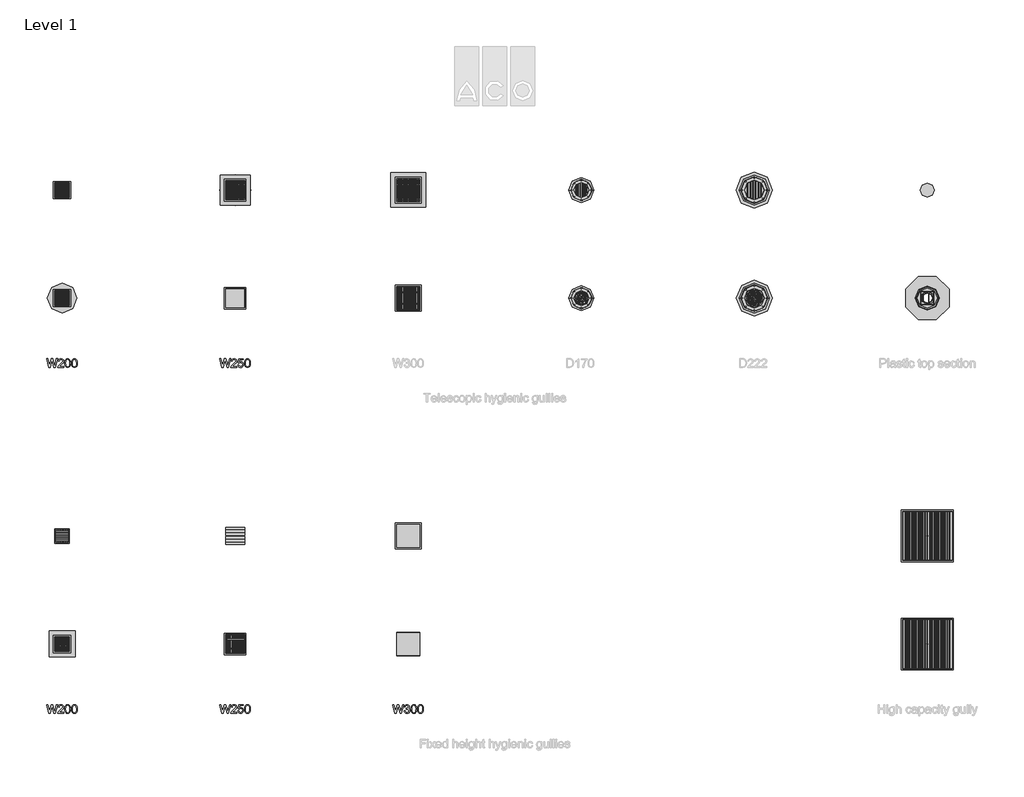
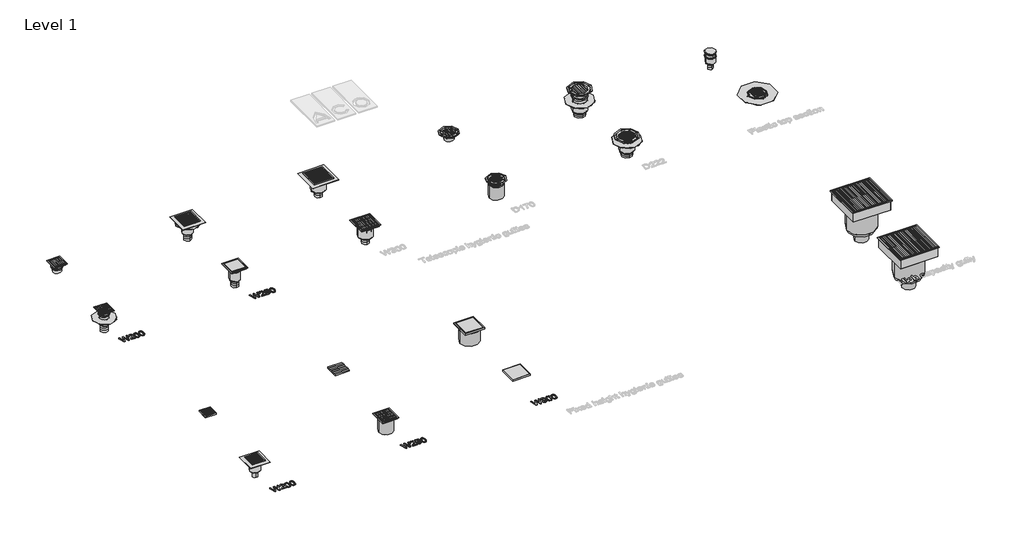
# One storey, part 1 of 3: 57 sanitary terminals, 5 proxies, 3 dampers.
"""IFC4 building model written with IfcOpenShell, lengths in millimetres."""

from ifc_helpers import new_model, si_unit, origin, origin_with_axes, place, context, project, spatial, polyline, outline, extrude, transform, mapped, element, save
from components import std_nested_2a3f0441, std_nested_5fa89a83, w200_grade_1_4301_fixed_height_hygienic_gully_142_outlet_75_82e209ba, std_nested_a31448ca, std_nested_d3c4a1f5, std_nested_3aef32b5, std_nested_d116548a, std_nested_d5818558, std_nested_c48ed7b9, std_nested_245f124b, std_nested_c32a463d, std_nested_079e4442, std_nested_9cee5a2e, std_nested_57f2950a, std_nested_2ee354ad, std_nested_9b02ec69, std_nested_2be02d67, std_nested_8abb2362, std_nested_8b3f8c66, std_nested_70ec9771, std_nested_4e44c4c3, std_nested_489a93e3, std_nested_b19227e2, std_nested_592c855f, std_nested_7deef7a1, std_nested_275881f0, std_nested_45a2f4f4, std_nested_0eeefa5e, std_nested_6499384f, std_nested_efb698b0, std_nested_4763630c, std_nested_6d645567, std_nested_413075a2, std_nested_e0442021, std_nested_ff023d64, std_nested_d4b4db04, std_nested_1c124e65, std_nested_e2511e1a, std_nested_406fe5f1, std_nested_98c6a3e6, std_nested_b8717db3

model = new_model("IFC4")

# Units and contexts
model_context = context("Model", 3, world=origin())
ifc_project = project(units=[si_unit("LENGTHUNIT", "METRE", prefix="MILLI")], contexts=[model_context])

# Site, building, storey
site = spatial("IfcSite", under=ifc_project)
building = spatial("IfcBuilding", under=site)
storey = spatial("IfcBuildingStorey", under=building, Name="Level 1", Elevation=0.0)

# Proxies
placement = place(None, origin())
element("IfcBuildingElementProxy", 1, Name="100mm ACO", ObjectType="100mm ACO", at=placement, inside=storey, context=model_context, shape_type="SweptSolid", body=[
    extrude(outline(polyline([(-4051.8518519, -6500.0), (-4078.0092593, -6600.0), (-4093.8657407, -6600.0), (-4113.744213, -6521.1516204), (-4115.7407407, -6511.9502315), (-4118.75, -6523.8136574), (-4139.6990741, -6600.0), (-4153.587963, -6600.0), (-4179.6296296, -6500.0), (-4166.3194444, -6500.0), (-4151.1863426, -6565.6828704), (-4147.3668981, -6584.6643519), (-4142.7083333, -6567.505787), (-4123.8425926, -6500.0), (-4107.494213, -6500.0), (-4093.8078704, -6550.6076389), (-4086.3715278, -6586.1111111), (-4081.25, -6564.3229167), (-4065.2199074, -6500.0), (-4051.8518519, -6500.0)])), origin_with_axes(), (0.0, 0.0, 1.0), 10.0),
    extrude(outline(polyline([(-3981.4814815, -6600.0), (-4048.1481481, -6600.0), (-4042.1875, -6584.4039352), (-4020.1678241, -6562.7893519), (-4002.4016204, -6545.4571759), (-3996.4337384, -6536.4293981), (-3994.4444444, -6527.34375), (-3999.8697917, -6514.380787), (-4013.5706019, -6509.2592593), (-4027.6041667, -6514.3663194), (-4031.8721065, -6520.7356771), (-4033.3333333, -6529.6296296), (-4046.2962963, -6528.2407407), (-4043.1568287, -6516.1385995), (-4036.1111111, -6507.2627315), (-4025.8969907, -6501.8156829), (-4013.2523148, -6500.0), (-3999.89511, -6502.0869502), (-3989.8582176, -6508.3478009), (-3983.5756655, -6517.5600405), (-3981.4814815, -6528.5011574), (-3983.2320602, -6538.4042245), (-3988.4837963, -6548.4375), (-4015.9143519, -6575.9548611), (-4031.4814815, -6590.7407407), (-3981.4814815, -6590.7407407), (-3981.4814815, -6600.0)])), origin_with_axes(), (0.0, 0.0, 1.0), 10.0),
    extrude(outline(polyline([(-3935.2141204, -6500.0), (-3920.6181279, -6503.1864873), (-3910.192419, -6512.7459491), (-3903.9369936, -6528.6783854), (-3901.8518519, -6550.9837963), (-3904.0075231, -6573.4555845), (-3910.474537, -6589.3084491), (-3920.9707755, -6598.7160012), (-3935.2141204, -6601.8518519), (-3949.7847946, -6598.6725984), (-3960.192419, -6589.134838), (-3966.4369936, -6573.2385706), (-3968.5185185, -6550.9837963), (-3966.3628472, -6528.515625), (-3959.8958333, -6512.6157407), (-3949.4140625, -6503.1539352), (-3935.2141204, -6500.0)]), holes=[polyline([(-3935.1851852, -6592.5925926), (-3926.3454861, -6590.1584201), (-3919.9652778, -6582.8559028), (-3916.1024306, -6570.0195312), (-3914.8148148, -6550.9837963), (-3917.0717593, -6526.7650463), (-3923.8859954, -6513.599537), (-3935.3298611, -6509.2592593), (-3944.1514757, -6511.7368345), (-3950.4774306, -6519.1695602), (-3954.2860243, -6532.0782697), (-3955.5555556, -6550.9837963), (-3953.2552083, -6575.0434028), (-3946.4409722, -6588.2523148), (-3935.1851852, -6592.5925926)])]), origin_with_axes(), (0.0, 0.0, 1.0), 10.0),
    extrude(outline(polyline([(-3857.4363426, -6500.0), (-3842.8403501, -6503.1864873), (-3832.4146412, -6512.7459491), (-3826.1592159, -6528.6783854), (-3824.0740741, -6550.9837963), (-3826.2297454, -6573.4555845), (-3832.6967593, -6589.3084491), (-3843.1929977, -6598.7160012), (-3857.4363426, -6601.8518519), (-3872.0070168, -6598.6725984), (-3882.4146412, -6589.134838), (-3888.6592159, -6573.2385706), (-3890.7407407, -6550.9837963), (-3888.5850694, -6528.515625), (-3882.1180556, -6512.6157407), (-3871.6362847, -6503.1539352), (-3857.4363426, -6500.0)]), holes=[polyline([(-3857.4074074, -6592.5925926), (-3848.5677083, -6590.1584201), (-3842.1875, -6582.8559028), (-3838.3246528, -6570.0195312), (-3837.037037, -6550.9837963), (-3839.2939815, -6526.7650463), (-3846.1082176, -6513.599537), (-3857.5520833, -6509.2592593), (-3866.3736979, -6511.7368345), (-3872.6996528, -6519.1695602), (-3876.5082465, -6532.0782697), (-3877.7777778, -6550.9837963), (-3875.4774306, -6575.0434028), (-3868.6631944, -6588.2523148), (-3857.4074074, -6592.5925926)])]), origin_with_axes(), (0.0, 0.0, 1.0), 10.0),
])
element("IfcBuildingElementProxy", 2, Name="100mm ACO", ObjectType="100mm ACO", at=placement, inside=storey, context=model_context, shape_type="SweptSolid", body=[
    extrude(outline(polyline([(-2051.8518519, -6500.0), (-2078.0092593, -6600.0), (-2093.8657407, -6600.0), (-2113.744213, -6521.1516204), (-2115.7407407, -6511.9502315), (-2118.75, -6523.8136574), (-2139.6990741, -6600.0), (-2153.587963, -6600.0), (-2179.6296296, -6500.0), (-2166.3194444, -6500.0), (-2151.1863426, -6565.6828704), (-2147.3668981, -6584.6643519), (-2142.7083333, -6567.505787), (-2123.8425926, -6500.0), (-2107.494213, -6500.0), (-2093.8078704, -6550.6076389), (-2086.3715278, -6586.1111111), (-2081.25, -6564.3229167), (-2065.2199074, -6500.0), (-2051.8518519, -6500.0)])), origin_with_axes(), (0.0, 0.0, 1.0), 10.0),
    extrude(outline(polyline([(-1981.4814815, -6600.0), (-2048.1481481, -6600.0), (-2042.1875, -6584.4039352), (-2020.1678241, -6562.7893519), (-2002.4016204, -6545.4571759), (-1996.4337384, -6536.4293981), (-1994.4444444, -6527.34375), (-1999.8697917, -6514.380787), (-2013.5706019, -6509.2592593), (-2027.6041667, -6514.3663194), (-2031.8721065, -6520.7356771), (-2033.3333333, -6529.6296296), (-2046.2962963, -6528.2407407), (-2043.1568287, -6516.1385995), (-2036.1111111, -6507.2627315), (-2025.8969907, -6501.8156829), (-2013.2523148, -6500.0), (-1999.89511, -6502.0869502), (-1989.8582176, -6508.3478009), (-1983.5756655, -6517.5600405), (-1981.4814815, -6528.5011574), (-1983.2320602, -6538.4042245), (-1988.4837963, -6548.4375), (-2015.9143519, -6575.9548611), (-2031.4814815, -6590.7407407), (-1981.4814815, -6590.7407407), (-1981.4814815, -6600.0)])), origin_with_axes(), (0.0, 0.0, 1.0), 10.0),
    extrude(outline(polyline([(-1951.0416667, -6537.8761574), (-1932.3784722, -6533.3333333), (-1920.8948206, -6535.5577257), (-1910.9809028, -6542.2309028), (-1904.1341146, -6552.6077836), (-1901.8518519, -6565.943287), (-1904.2209201, -6579.7815394), (-1911.328125, -6591.3773148), (-1922.2764757, -6599.2332176), (-1936.1689815, -6601.8518519), (-1947.9094329, -6600.0434028), (-1957.9571759, -6594.6180556), (-1965.198206, -6585.6481481), (-1968.5185185, -6573.2060185), (-1955.5555556, -6572.2222222), (-1948.7847222, -6587.5434028), (-1936.0243056, -6592.5925926), (-1927.4594907, -6590.7190394), (-1920.6886574, -6585.0983796), (-1916.2832755, -6576.7361111), (-1914.8148148, -6566.6377315), (-1916.2868924, -6556.6695602), (-1920.703125, -6549.0451389), (-1927.4341725, -6544.2057292), (-1935.8506944, -6542.5925926), (-1946.1877894, -6544.9435764), (-1953.8194444, -6551.9965278), (-1966.6666667, -6550.4918981), (-1956.9733796, -6501.8518519), (-1905.5555556, -6501.8518519), (-1905.5555556, -6511.1111111), (-1945.6886574, -6511.1111111), (-1951.0416667, -6537.8761574)])), origin_with_axes(), (0.0, 0.0, 1.0), 10.0),
    extrude(outline(polyline([(-1857.4363426, -6500.0), (-1842.8403501, -6503.1864873), (-1832.4146412, -6512.7459491), (-1826.1592159, -6528.6783854), (-1824.0740741, -6550.9837963), (-1826.2297454, -6573.4555845), (-1832.6967593, -6589.3084491), (-1843.1929977, -6598.7160012), (-1857.4363426, -6601.8518519), (-1872.0070168, -6598.6725984), (-1882.4146412, -6589.134838), (-1888.6592159, -6573.2385706), (-1890.7407407, -6550.9837963), (-1888.5850694, -6528.515625), (-1882.1180556, -6512.6157407), (-1871.6362847, -6503.1539352), (-1857.4363426, -6500.0)]), holes=[polyline([(-1857.4074074, -6592.5925926), (-1848.5677083, -6590.1584201), (-1842.1875, -6582.8559028), (-1838.3246528, -6570.0195312), (-1837.037037, -6550.9837963), (-1839.2939815, -6526.7650463), (-1846.1082176, -6513.599537), (-1857.5520833, -6509.2592593), (-1866.3736979, -6511.7368345), (-1872.6996528, -6519.1695602), (-1876.5082465, -6532.0782697), (-1877.7777778, -6550.9837963), (-1875.4774306, -6575.0434028), (-1868.6631944, -6588.2523148), (-1857.4074074, -6592.5925926)])]), origin_with_axes(), (0.0, 0.0, 1.0), 10.0),
])
element("IfcBuildingElementProxy", 3, Name="100mm ACO", ObjectType="100mm ACO", at=placement, inside=storey, context=model_context, shape_type="SweptSolid", body=[
    extrude(outline(polyline([(-51.8518519, -6500.0), (-78.0092593, -6600.0), (-93.8657407, -6600.0), (-113.744213, -6521.1516204), (-115.7407407, -6511.9502315), (-118.75, -6523.8136574), (-139.6990741, -6600.0), (-153.587963, -6600.0), (-179.6296296, -6500.0), (-166.3194444, -6500.0), (-151.1863426, -6565.6828704), (-147.3668981, -6584.6643519), (-142.7083333, -6567.505787), (-123.8425926, -6500.0), (-107.494213, -6500.0), (-93.8078704, -6550.6076389), (-86.3715278, -6586.1111111), (-81.25, -6564.3229167), (-65.2199074, -6500.0), (-51.8518519, -6500.0)])), origin_with_axes(), (0.0, 0.0, 1.0), 10.0),
    extrude(outline(polyline([(1.1863426, -6546.3975694), (9.516059, -6549.6346933), (15.5237269, -6555.4253472), (20.3703704, -6570.9490741), (17.8457755, -6583.2573785), (10.2719907, -6593.1568287), (-0.817419, -6599.6780961), (-13.8888889, -6601.8518519), (-26.1682581, -6599.9348958), (-36.0966435, -6594.1840278), (-43.0230035, -6585.2864583), (-46.2962963, -6573.9293981), (-33.3333333, -6572.2222222), (-26.5046296, -6587.5144676), (-13.4548611, -6592.5925926), (-5.3855613, -6591.0662616), (1.3454861, -6586.4872685), (5.8919271, -6579.6947338), (7.4074074, -6571.5277778), (5.9859664, -6563.7695312), (1.7216435, -6557.4508102), (-4.8357928, -6553.2515914), (-13.1365741, -6551.8518519), (-22.2222222, -6553.7037037), (-20.775463, -6542.5925926), (-12.9050926, -6542.1006944), (-6.4236111, -6539.6990741), (-0.4918981, -6534.2303241), (1.8518519, -6525.4050926), (-2.9369213, -6513.4837963), (-14.0335648, -6509.2592593), (-25.7667824, -6514.0625), (-31.4814815, -6527.7777778), (-44.4444444, -6525.5497685), (-40.6069155, -6514.3627025), (-33.8975694, -6506.3802083), (-24.9529803, -6501.5950521), (-14.4097222, -6500.0), (-2.9441551, -6501.8916377), (6.4525463, -6507.5665509), (12.7242477, -6515.9758391), (14.8148148, -6526.0706019), (11.4076968, -6538.1365741), (1.1863426, -6546.3975694)])), origin_with_axes(), (0.0, 0.0, 1.0), 10.0),
    extrude(outline(polyline([(64.7858796, -6500.0), (79.3818721, -6503.1864873), (89.807581, -6512.7459491), (96.0630064, -6528.6783854), (98.1481481, -6550.9837963), (95.9924769, -6573.4555845), (89.525463, -6589.3084491), (79.0292245, -6598.7160012), (64.7858796, -6601.8518519), (50.2152054, -6598.6725984), (39.807581, -6589.134838), (33.5630064, -6573.2385706), (31.4814815, -6550.9837963), (33.6371528, -6528.515625), (40.1041667, -6512.6157407), (50.5859375, -6503.1539352), (64.7858796, -6500.0)]), holes=[polyline([(64.8148148, -6592.5925926), (73.6545139, -6590.1584201), (80.0347222, -6582.8559028), (83.8975694, -6570.0195312), (85.1851852, -6550.9837963), (82.9282407, -6526.7650463), (76.1140046, -6513.599537), (64.6701389, -6509.2592593), (55.8485243, -6511.7368345), (49.5225694, -6519.1695602), (45.7139757, -6532.0782697), (44.4444444, -6550.9837963), (46.7447917, -6575.0434028), (53.5590278, -6588.2523148), (64.8148148, -6592.5925926)])]), origin_with_axes(), (0.0, 0.0, 1.0), 10.0),
    extrude(outline(polyline([(142.5636574, -6500.0), (157.1596499, -6503.1864873), (167.5853588, -6512.7459491), (173.8407841, -6528.6783854), (175.9259259, -6550.9837963), (173.7702546, -6573.4555845), (167.3032407, -6589.3084491), (156.8070023, -6598.7160012), (142.5636574, -6601.8518519), (127.9929832, -6598.6725984), (117.5853588, -6589.134838), (111.3407841, -6573.2385706), (109.2592593, -6550.9837963), (111.4149306, -6528.515625), (117.8819444, -6512.6157407), (128.3637153, -6503.1539352), (142.5636574, -6500.0)]), holes=[polyline([(142.5925926, -6592.5925926), (151.4322917, -6590.1584201), (157.8125, -6582.8559028), (161.6753472, -6570.0195312), (162.962963, -6550.9837963), (160.7060185, -6526.7650463), (153.8917824, -6513.599537), (142.4479167, -6509.2592593), (133.6263021, -6511.7368345), (127.3003472, -6519.1695602), (123.4917535, -6532.0782697), (122.2222222, -6550.9837963), (124.5225694, -6575.0434028), (131.3368056, -6588.2523148), (142.5925926, -6592.5925926)])]), origin_with_axes(), (0.0, 0.0, 1.0), 10.0),
])
element("IfcBuildingElementProxy", 4, Name="100mm ACO", ObjectType="100mm ACO", at=placement, inside=storey, context=model_context, shape_type="SweptSolid", body=[
    extrude(outline(polyline([(-4051.8518519, -2500.0), (-4078.0092593, -2600.0), (-4093.8657407, -2600.0), (-4113.744213, -2521.1516204), (-4115.7407407, -2511.9502315), (-4118.75, -2523.8136574), (-4139.6990741, -2600.0), (-4153.587963, -2600.0), (-4179.6296296, -2500.0), (-4166.3194444, -2500.0), (-4151.1863426, -2565.6828704), (-4147.3668981, -2584.6643519), (-4142.7083333, -2567.505787), (-4123.8425926, -2500.0), (-4107.494213, -2500.0), (-4093.8078704, -2550.6076389), (-4086.3715278, -2586.1111111), (-4081.25, -2564.3229167), (-4065.2199074, -2500.0), (-4051.8518519, -2500.0)])), origin_with_axes(), (0.0, 0.0, 1.0), 10.0),
    extrude(outline(polyline([(-3981.4814815, -2600.0), (-4048.1481481, -2600.0), (-4042.1875, -2584.4039352), (-4020.1678241, -2562.7893519), (-4002.4016204, -2545.4571759), (-3996.4337384, -2536.4293981), (-3994.4444444, -2527.34375), (-3999.8697917, -2514.380787), (-4013.5706019, -2509.2592593), (-4027.6041667, -2514.3663194), (-4031.8721065, -2520.7356771), (-4033.3333333, -2529.6296296), (-4046.2962963, -2528.2407407), (-4043.1568287, -2516.1385995), (-4036.1111111, -2507.2627315), (-4025.8969907, -2501.8156829), (-4013.2523148, -2500.0), (-3999.89511, -2502.0869502), (-3989.8582176, -2508.3478009), (-3983.5756655, -2517.5600405), (-3981.4814815, -2528.5011574), (-3983.2320602, -2538.4042245), (-3988.4837963, -2548.4375), (-4015.9143519, -2575.9548611), (-4031.4814815, -2590.7407407), (-3981.4814815, -2590.7407407), (-3981.4814815, -2600.0)])), origin_with_axes(), (0.0, 0.0, 1.0), 10.0),
    extrude(outline(polyline([(-3935.2141204, -2500.0), (-3920.6181279, -2503.1864873), (-3910.192419, -2512.7459491), (-3903.9369936, -2528.6783854), (-3901.8518519, -2550.9837963), (-3904.0075231, -2573.4555845), (-3910.474537, -2589.3084491), (-3920.9707755, -2598.7160012), (-3935.2141204, -2601.8518519), (-3949.7847946, -2598.6725984), (-3960.192419, -2589.134838), (-3966.4369936, -2573.2385706), (-3968.5185185, -2550.9837963), (-3966.3628472, -2528.515625), (-3959.8958333, -2512.6157407), (-3949.4140625, -2503.1539352), (-3935.2141204, -2500.0)]), holes=[polyline([(-3935.1851852, -2592.5925926), (-3926.3454861, -2590.1584201), (-3919.9652778, -2582.8559028), (-3916.1024306, -2570.0195312), (-3914.8148148, -2550.9837963), (-3917.0717593, -2526.7650463), (-3923.8859954, -2513.599537), (-3935.3298611, -2509.2592593), (-3944.1514757, -2511.7368345), (-3950.4774306, -2519.1695602), (-3954.2860243, -2532.0782697), (-3955.5555556, -2550.9837963), (-3953.2552083, -2575.0434028), (-3946.4409722, -2588.2523148), (-3935.1851852, -2592.5925926)])]), origin_with_axes(), (0.0, 0.0, 1.0), 10.0),
    extrude(outline(polyline([(-3857.4363426, -2500.0), (-3842.8403501, -2503.1864873), (-3832.4146412, -2512.7459491), (-3826.1592159, -2528.6783854), (-3824.0740741, -2550.9837963), (-3826.2297454, -2573.4555845), (-3832.6967593, -2589.3084491), (-3843.1929977, -2598.7160012), (-3857.4363426, -2601.8518519), (-3872.0070168, -2598.6725984), (-3882.4146412, -2589.134838), (-3888.6592159, -2573.2385706), (-3890.7407407, -2550.9837963), (-3888.5850694, -2528.515625), (-3882.1180556, -2512.6157407), (-3871.6362847, -2503.1539352), (-3857.4363426, -2500.0)]), holes=[polyline([(-3857.4074074, -2592.5925926), (-3848.5677083, -2590.1584201), (-3842.1875, -2582.8559028), (-3838.3246528, -2570.0195312), (-3837.037037, -2550.9837963), (-3839.2939815, -2526.7650463), (-3846.1082176, -2513.599537), (-3857.5520833, -2509.2592593), (-3866.3736979, -2511.7368345), (-3872.6996528, -2519.1695602), (-3876.5082465, -2532.0782697), (-3877.7777778, -2550.9837963), (-3875.4774306, -2575.0434028), (-3868.6631944, -2588.2523148), (-3857.4074074, -2592.5925926)])]), origin_with_axes(), (0.0, 0.0, 1.0), 10.0),
])
element("IfcBuildingElementProxy", 5, Name="100mm ACO", ObjectType="100mm ACO", at=placement, inside=storey, context=model_context, shape_type="SweptSolid", body=[
    extrude(outline(polyline([(-2051.8518519, -2500.0), (-2078.0092593, -2600.0), (-2093.8657407, -2600.0), (-2113.744213, -2521.1516204), (-2115.7407407, -2511.9502315), (-2118.75, -2523.8136574), (-2139.6990741, -2600.0), (-2153.587963, -2600.0), (-2179.6296296, -2500.0), (-2166.3194444, -2500.0), (-2151.1863426, -2565.6828704), (-2147.3668981, -2584.6643519), (-2142.7083333, -2567.505787), (-2123.8425926, -2500.0), (-2107.494213, -2500.0), (-2093.8078704, -2550.6076389), (-2086.3715278, -2586.1111111), (-2081.25, -2564.3229167), (-2065.2199074, -2500.0), (-2051.8518519, -2500.0)])), origin_with_axes(), (0.0, 0.0, 1.0), 10.0),
    extrude(outline(polyline([(-1981.4814815, -2600.0), (-2048.1481481, -2600.0), (-2042.1875, -2584.4039352), (-2020.1678241, -2562.7893519), (-2002.4016204, -2545.4571759), (-1996.4337384, -2536.4293981), (-1994.4444444, -2527.34375), (-1999.8697917, -2514.380787), (-2013.5706019, -2509.2592593), (-2027.6041667, -2514.3663194), (-2031.8721065, -2520.7356771), (-2033.3333333, -2529.6296296), (-2046.2962963, -2528.2407407), (-2043.1568287, -2516.1385995), (-2036.1111111, -2507.2627315), (-2025.8969907, -2501.8156829), (-2013.2523148, -2500.0), (-1999.89511, -2502.0869502), (-1989.8582176, -2508.3478009), (-1983.5756655, -2517.5600405), (-1981.4814815, -2528.5011574), (-1983.2320602, -2538.4042245), (-1988.4837963, -2548.4375), (-2015.9143519, -2575.9548611), (-2031.4814815, -2590.7407407), (-1981.4814815, -2590.7407407), (-1981.4814815, -2600.0)])), origin_with_axes(), (0.0, 0.0, 1.0), 10.0),
    extrude(outline(polyline([(-1951.0416667, -2537.8761574), (-1932.3784722, -2533.3333333), (-1920.8948206, -2535.5577257), (-1910.9809028, -2542.2309028), (-1904.1341146, -2552.6077836), (-1901.8518519, -2565.943287), (-1904.2209201, -2579.7815394), (-1911.328125, -2591.3773148), (-1922.2764757, -2599.2332176), (-1936.1689815, -2601.8518519), (-1947.9094329, -2600.0434028), (-1957.9571759, -2594.6180556), (-1965.198206, -2585.6481481), (-1968.5185185, -2573.2060185), (-1955.5555556, -2572.2222222), (-1948.7847222, -2587.5434028), (-1936.0243056, -2592.5925926), (-1927.4594907, -2590.7190394), (-1920.6886574, -2585.0983796), (-1916.2832755, -2576.7361111), (-1914.8148148, -2566.6377315), (-1916.2868924, -2556.6695602), (-1920.703125, -2549.0451389), (-1927.4341725, -2544.2057292), (-1935.8506944, -2542.5925926), (-1946.1877894, -2544.9435764), (-1953.8194444, -2551.9965278), (-1966.6666667, -2550.4918981), (-1956.9733796, -2501.8518519), (-1905.5555556, -2501.8518519), (-1905.5555556, -2511.1111111), (-1945.6886574, -2511.1111111), (-1951.0416667, -2537.8761574)])), origin_with_axes(), (0.0, 0.0, 1.0), 10.0),
    extrude(outline(polyline([(-1857.4363426, -2500.0), (-1842.8403501, -2503.1864873), (-1832.4146412, -2512.7459491), (-1826.1592159, -2528.6783854), (-1824.0740741, -2550.9837963), (-1826.2297454, -2573.4555845), (-1832.6967593, -2589.3084491), (-1843.1929977, -2598.7160012), (-1857.4363426, -2601.8518519), (-1872.0070168, -2598.6725984), (-1882.4146412, -2589.134838), (-1888.6592159, -2573.2385706), (-1890.7407407, -2550.9837963), (-1888.5850694, -2528.515625), (-1882.1180556, -2512.6157407), (-1871.6362847, -2503.1539352), (-1857.4363426, -2500.0)]), holes=[polyline([(-1857.4074074, -2592.5925926), (-1848.5677083, -2590.1584201), (-1842.1875, -2582.8559028), (-1838.3246528, -2570.0195312), (-1837.037037, -2550.9837963), (-1839.2939815, -2526.7650463), (-1846.1082176, -2513.599537), (-1857.5520833, -2509.2592593), (-1866.3736979, -2511.7368345), (-1872.6996528, -2519.1695602), (-1876.5082465, -2532.0782697), (-1877.7777778, -2550.9837963), (-1875.4774306, -2575.0434028), (-1868.6631944, -2588.2523148), (-1857.4074074, -2592.5925926)])]), origin_with_axes(), (0.0, 0.0, 1.0), 10.0),
])

# Dampers
std_nested_shape = std_nested_2a3f0441(model_context)
element("IfcDamper", 6, ObjectType="ZZZ_do_not_use_PIA_GEN_UN_fire resistant kit for hygienic gullies_ACO : std (nested)", at=placement, inside=storey, context=model_context, shape_type="MappedRepresentation", body=[
    mapped(std_nested_shape, transform((0.0, -4550.0, -33.0), x_axis=(1.0, 0.0, 0.0), y_axis=(0.0, 1.0, 0.0), z_axis=(0.0, 0.0, 1.0))),
])
std_nested_2_shape = std_nested_5fa89a83(model_context)
element("IfcDamper", 7, ObjectType="ZZZ_do_not_use_PIA_GEN_UN_fire resistant kit for hygienic gullies_ACO : std (nested)", at=placement, inside=storey, context=model_context, shape_type="MappedRepresentation", body=[
    mapped(std_nested_2_shape, transform((-2000.0, -5800.0, -33.0), x_axis=(1.0, 0.0, 0.0), y_axis=(0.0, 1.0, 0.0), z_axis=(0.0, 0.0, 1.0))),
])
element("IfcDamper", 8, ObjectType="ZZZ_do_not_use_PIA_GEN_UN_fire resistant kit for hygienic gullies_ACO : std (nested)", at=placement, inside=storey, context=model_context, shape_type="MappedRepresentation", body=[
    mapped(std_nested_2_shape, transform((2000.0, -1800.0, -60.0), x_axis=(1.0, 0.0, 0.0), y_axis=(0.0, 1.0, 0.0), z_axis=(0.0, 0.0, 1.0))),
])

# Sanitary terminals
w200_grade_1_4301_fixed_height_hygienic_gully_142_outlet_75_shape = w200_grade_1_4301_fixed_height_hygienic_gully_142_outlet_75_82e209ba(model_context)
element("IfcSanitaryTerminal", 9, ObjectType="PF_ST_UN_fixed height hygienic gully W200_ACO : W200 grade 1.4301 fixed height hygienic gully 142 outlet 75", at=placement, inside=storey, context=model_context, shape_type="MappedRepresentation", body=[
    mapped(w200_grade_1_4301_fixed_height_hygienic_gully_142_outlet_75_shape, transform((-4000.0, -4550.0, 0.0), x_axis=(1.0, 0.0, 0.0), y_axis=(0.0, 1.0, 0.0), z_axis=(0.0, 0.0, 1.0))),
])
element("IfcSanitaryTerminal", 10, ObjectType="PF_ST_UN_fixed height hygienic gully W200_ACO : W200 grade 1.4404 fixed height hygienic gully 157 outlet 75", at=placement, inside=storey, context=model_context, shape_type="MappedRepresentation", body=[
    mapped(w200_grade_1_4301_fixed_height_hygienic_gully_142_outlet_75_shape, transform((-4000.0, -5800.0, 0.0), x_axis=(1.0, 0.0, 0.0), y_axis=(0.0, 1.0, 0.0), z_axis=(0.0, 0.0, 1.0))),
])
element("IfcSanitaryTerminal", 11, ObjectType="PF_ST_UN_fixed height hygienic gully W250_ACO : W250 grade 1.4301 fixed height hygienic gully 157 outlet 75", at=placement, inside=storey, context=model_context, shape_type="MappedRepresentation", body=[
    mapped(w200_grade_1_4301_fixed_height_hygienic_gully_142_outlet_75_shape, transform((-2000.0, -5800.0, 0.0), x_axis=(1.0, 0.0, 0.0), y_axis=(0.0, 1.0, 0.0), z_axis=(0.0, 0.0, 1.0))),
])
element("IfcSanitaryTerminal", 12, ObjectType="PF_ST_UN_fixed height hygienic gully W250_ACO : W250 grade 1.4301 fixed height hygienic gully 157 outlet 75", at=placement, inside=storey, context=model_context, shape_type="MappedRepresentation", body=[
    mapped(w200_grade_1_4301_fixed_height_hygienic_gully_142_outlet_75_shape, transform((-2000.0, -4550.0, 0.0), x_axis=(1.0, 0.0, 0.0), y_axis=(0.0, 1.0, 0.0), z_axis=(0.0, 0.0, 1.0))),
])
element("IfcSanitaryTerminal", 13, ObjectType="PF_ST_UN_fixed height hygienic gully W300_ACO : W300 grade 1.4301 fixed height hygienic gully 218 outlet 110", at=placement, inside=storey, context=model_context, shape_type="MappedRepresentation", body=[
    mapped(w200_grade_1_4301_fixed_height_hygienic_gully_142_outlet_75_shape, transform((0.0, -5800.0, 0.0), x_axis=(1.0, 0.0, 0.0), y_axis=(0.0, 1.0, 0.0), z_axis=(0.0, 0.0, 1.0))),
])
element("IfcSanitaryTerminal", 14, ObjectType="PF_ST_UN_fixed height hygienic gully W300_ACO : W300 grade 1.4301 fixed height hygienic gully 218 outlet 110", at=placement, inside=storey, context=model_context, shape_type="MappedRepresentation", body=[
    mapped(w200_grade_1_4301_fixed_height_hygienic_gully_142_outlet_75_shape, transform((0.0, -4550.0, 0.0), x_axis=(1.0, 0.0, 0.0), y_axis=(0.0, 1.0, 0.0), z_axis=(0.0, 0.0, 1.0))),
])
element("IfcSanitaryTerminal", 15, ObjectType="PF_ST_UN_hygienic high capacity gully_ACO : W600 grade 1.4301 hygienic high capacity gully outlet 200", at=placement, inside=storey, context=model_context, shape_type="MappedRepresentation", body=[
    mapped(w200_grade_1_4301_fixed_height_hygienic_gully_142_outlet_75_shape, transform((6000.0, -5800.0, 0.0), x_axis=(1.0, 0.0, 0.0), y_axis=(0.0, 1.0, 0.0), z_axis=(0.0, 0.0, 1.0))),
])
element("IfcSanitaryTerminal", 16, ObjectType="PF_ST_UN_hygienic high capacity gully_ACO : W600 grade 1.4404 hygienic high capacity gully outlet 200", at=placement, inside=storey, context=model_context, shape_type="MappedRepresentation", body=[
    mapped(w200_grade_1_4301_fixed_height_hygienic_gully_142_outlet_75_shape, transform((6000.0, -4550.0, 0.0), x_axis=(1.0, 0.0, 0.0), y_axis=(0.0, 1.0, 0.0), z_axis=(0.0, 0.0, 1.0))),
])
std_nested_3_shape = std_nested_a31448ca(model_context)
element("IfcSanitaryTerminal", 17, ObjectType="ZZZ_do not use_PF_ST_UN_square grating for hygienic gully_ACO : std (nested)", at=placement, inside=storey, context=model_context, shape_type="MappedRepresentation", body=[
    mapped(std_nested_3_shape, transform((0.0, -5800.0, 0.0), x_axis=(1.0, 0.0, 0.0), y_axis=(0.0, 1.0, 0.0), z_axis=(0.0, 0.0, 1.0))),
])
element("IfcSanitaryTerminal", 18, ObjectType="ZZZ_do not use_PF_ST_UN_square grating for hygienic gully_ACO : std (nested)", at=placement, inside=storey, context=model_context, shape_type="MappedRepresentation", body=[
    mapped(std_nested_3_shape, transform((0.0, -4550.0, 0.0), x_axis=(1.0, 0.0, 0.0), y_axis=(0.0, 1.0, 0.0), z_axis=(0.0, 0.0, 1.0))),
])
std_nested_4_shape = std_nested_d3c4a1f5(model_context)
element("IfcSanitaryTerminal", 19, ObjectType="ZZZ_do not use_PF_ST_UN_square grating for hygienic gully_ACO : std (nested)", at=placement, inside=storey, context=model_context, shape_type="MappedRepresentation", body=[
    mapped(std_nested_4_shape, transform((0.0, -550.0, 0.0), x_axis=(1.0, 0.0, 0.0), y_axis=(0.0, 1.0, 0.0), z_axis=(0.0, 0.0, 1.0))),
])
std_nested_5_shape = std_nested_3aef32b5(model_context)
element("IfcSanitaryTerminal", 20, ObjectType="ZZZ_do not use_PF_ST_UN_grating for high capacity gully_ACO : std (nested)", at=placement, inside=storey, context=model_context, shape_type="MappedRepresentation", body=[
    mapped(std_nested_5_shape, transform((5857.5, -5800.0, 0.0), x_axis=(1.0, 0.0, 0.0), y_axis=(0.0, 1.0, 0.0), z_axis=(0.0, 0.0, 1.0))),
])
element("IfcSanitaryTerminal", 21, ObjectType="ZZZ_do not use_PF_ST_UN_grating for high capacity gully_ACO : std (nested)", at=placement, inside=storey, context=model_context, shape_type="MappedRepresentation", body=[
    mapped(std_nested_5_shape, transform((6142.5, -5800.0, 0.0), x_axis=(1.0, 0.0, 0.0), y_axis=(0.0, 1.0, 0.0), z_axis=(0.0, 0.0, 1.0))),
])
std_nested_6_shape = std_nested_d116548a(model_context)
element("IfcSanitaryTerminal", 22, ObjectType="ZZZ_do not use_PF_ST_UN_telescopic hygienic gully_ACO : std (nested)", at=placement, inside=storey, context=model_context, shape_type="MappedRepresentation", body=[
    mapped(std_nested_6_shape, transform((0.0, -1800.0, -56.5), x_axis=(1.0, 0.0, 0.0), y_axis=(0.0, 1.0, 0.0), z_axis=(0.0, 0.0, 1.0))),
])
element("IfcSanitaryTerminal", 23, ObjectType="ZZZ_do not use_PF_ST_UN_telescopic hygienic gully_ACO : std (nested)", at=placement, inside=storey, context=model_context, shape_type="MappedRepresentation", body=[
    mapped(std_nested_6_shape, transform((0.0, -550.0, -57.5), x_axis=(1.0, 0.0, 0.0), y_axis=(0.0, 1.0, 0.0), z_axis=(0.0, 0.0, 1.0))),
])
std_nested_7_shape = std_nested_d5818558(model_context)
element("IfcSanitaryTerminal", 24, ObjectType="ZZZ_do not use_PF_ST_UN_telescopic hygienic gully_ACO : std (nested)", at=placement, inside=storey, context=model_context, shape_type="MappedRepresentation", body=[
    mapped(std_nested_7_shape, transform((-2000.0, -1800.0, -56.5), x_axis=(1.0, 0.0, 0.0), y_axis=(0.0, 1.0, 0.0), z_axis=(0.0, 0.0, 1.0))),
])
std_nested_8_shape = std_nested_c48ed7b9(model_context)
element("IfcSanitaryTerminal", 25, ObjectType="ZZZ_do not use_PF_ST_UN_telescopic hygienic gully_ACO : std (nested)", at=placement, inside=storey, context=model_context, shape_type="MappedRepresentation", body=[
    mapped(std_nested_8_shape, transform((4000.0, -1800.0, -61.0), x_axis=(1.0, 0.0, 0.0), y_axis=(0.0, 1.0, 0.0), z_axis=(0.0, 0.0, 1.0))),
])
element("IfcSanitaryTerminal", 26, ObjectType="ZZZ_do not use_PF_ST_UN_grating for high capacity gully_ACO : std (nested)", at=placement, inside=storey, context=model_context, shape_type="MappedRepresentation", body=[
    mapped(std_nested_5_shape, transform((5857.5, -4550.0, 0.0), x_axis=(1.0, 0.0, 0.0), y_axis=(0.0, 1.0, 0.0), z_axis=(0.0, 0.0, 1.0))),
])
element("IfcSanitaryTerminal", 27, ObjectType="ZZZ_do not use_PF_ST_UN_grating for high capacity gully_ACO : std (nested)", at=placement, inside=storey, context=model_context, shape_type="MappedRepresentation", body=[
    mapped(std_nested_5_shape, transform((6142.5, -4550.0, 0.0), x_axis=(1.0, 0.0, 0.0), y_axis=(0.0, 1.0, 0.0), z_axis=(0.0, 0.0, 1.0))),
])
std_nested_9_shape = std_nested_245f124b(model_context)
element("IfcSanitaryTerminal", 28, ObjectType="ZZZ_do not use_PF_ST_UN_square grating for hygienic gully_ACO : std (nested)", at=placement, inside=storey, context=model_context, shape_type="MappedRepresentation", body=[
    mapped(std_nested_9_shape, transform((-4000.0, -4550.0, 0.0), x_axis=(1.0, 0.0, 0.0), y_axis=(0.0, 1.0, 0.0), z_axis=(0.0, 0.0, 1.0))),
])
std_nested_10_shape = std_nested_c32a463d(model_context)
element("IfcSanitaryTerminal", 29, ObjectType="ZZZ_do not use_PF_ST_UN_square grating for hygienic gully_ACO : std (nested)", at=placement, inside=storey, context=model_context, shape_type="MappedRepresentation", body=[
    mapped(std_nested_10_shape, transform((-2000.0, -4550.0, 0.0), x_axis=(1.0, 0.0, 0.0), y_axis=(0.0, 1.0, 0.0), z_axis=(0.0, 0.0, 1.0))),
])
std_nested_11_shape = std_nested_079e4442(model_context)
element("IfcSanitaryTerminal", 30, ObjectType="ZZZ_do not use_PF_ST_UN_square grating for hygienic gully_ACO : std (nested)", at=placement, inside=storey, context=model_context, shape_type="MappedRepresentation", body=[
    mapped(std_nested_11_shape, transform((-2000.0, -5800.0, 0.0), x_axis=(1.0, 0.0, 0.0), y_axis=(0.0, 1.0, 0.0), z_axis=(0.0, 0.0, 1.0))),
])
std_nested_12_shape = std_nested_9cee5a2e(model_context)
element("IfcSanitaryTerminal", 31, ObjectType="ZZZ_do not use_PF_ST_UN_square grating for hygienic gully_ACO : std (nested)", at=placement, inside=storey, context=model_context, shape_type="MappedRepresentation", body=[
    mapped(std_nested_12_shape, transform((-4000.0, -550.0, 0.0), x_axis=(1.0, 0.0, 0.0), y_axis=(0.0, 1.0, 0.0), z_axis=(0.0, 0.0, 1.0))),
])
std_nested_13_shape = std_nested_57f2950a(model_context)
element("IfcSanitaryTerminal", 32, ObjectType="ZZZ_do not use_PF_ST_UN_telescopic hygienic gully_ACO : std (nested)", at=placement, inside=storey, context=model_context, shape_type="MappedRepresentation", body=[
    mapped(std_nested_13_shape, transform((-2000.0, -550.0, -56.5), x_axis=(1.0, 0.0, 0.0), y_axis=(0.0, 1.0, 0.0), z_axis=(0.0, 0.0, 1.0))),
])
std_nested_14_shape = std_nested_2ee354ad(model_context)
element("IfcSanitaryTerminal", 33, ObjectType="ZZZ_do not use_PF_ST_UN_telescopic hygienic gully_ACO : std (nested)", at=placement, inside=storey, context=model_context, shape_type="MappedRepresentation", body=[
    mapped(std_nested_14_shape, transform((4000.0, -550.0, -173.0), x_axis=(1.0, 0.0, 0.0), y_axis=(0.0, 1.0, 0.0), z_axis=(0.0, 0.0, 1.0))),
])
std_nested_15_shape = std_nested_9b02ec69(model_context)
element("IfcSanitaryTerminal", 34, ObjectType="ZZZ_do not use_PF_ST_UN_square grating for hygienic gully_ACO : std (nested)", at=placement, inside=storey, context=model_context, shape_type="MappedRepresentation", body=[
    mapped(std_nested_15_shape, transform((-2000.0, -550.0, 0.0), x_axis=(1.0, 0.0, 0.0), y_axis=(0.0, 1.0, 0.0), z_axis=(0.0, 0.0, 1.0))),
])
std_nested_16_shape = std_nested_2be02d67(model_context)
element("IfcSanitaryTerminal", 35, ObjectType="ZZZ_do not use_PF_ST_UN_square grating for hygienic gully_ACO : std (nested)", at=placement, inside=storey, context=model_context, shape_type="MappedRepresentation", body=[
    mapped(std_nested_16_shape, transform((-2000.0, -1800.0, 0.0), x_axis=(1.0, 0.0, 0.0), y_axis=(0.0, 1.0, 0.0), z_axis=(0.0, 0.0, 1.0))),
])
std_nested_17_shape = std_nested_8abb2362(model_context)
element("IfcSanitaryTerminal", 36, ObjectType="ZZZ_do not use_PF_ST_UN_square grating for hygienic gully_ACO : std (nested)", at=placement, inside=storey, context=model_context, shape_type="MappedRepresentation", body=[
    mapped(std_nested_17_shape, transform((0.0, -1800.0, 0.0), x_axis=(1.0, 0.0, 0.0), y_axis=(0.0, 1.0, 0.0), z_axis=(0.0, 0.0, 1.0))),
])
std_nested_18_shape = std_nested_8b3f8c66(model_context)
element("IfcSanitaryTerminal", 37, ObjectType="ZZZ_do_not_use_PF_ST_UN_high capacity gully_ACO : std (nested)", at=placement, inside=storey, context=model_context, shape_type="MappedRepresentation", body=[
    mapped(std_nested_18_shape, transform((6000.0, -5800.0, 0.0), x_axis=(1.0, 0.0, 0.0), y_axis=(0.0, 1.0, 0.0), z_axis=(0.0, 0.0, 1.0))),
])
element("IfcSanitaryTerminal", 38, ObjectType="ZZZ_do_not_use_PF_ST_UN_high capacity gully_ACO : std (nested)", at=placement, inside=storey, context=model_context, shape_type="MappedRepresentation", body=[
    mapped(std_nested_18_shape, transform((6000.0, -4550.0, 0.0), x_axis=(1.0, 0.0, 0.0), y_axis=(0.0, 1.0, 0.0), z_axis=(0.0, 0.0, 1.0))),
])
std_nested_19_shape = std_nested_70ec9771(model_context)
element("IfcSanitaryTerminal", 39, ObjectType="ZZZ_do not use_PF_ST_UN_telescopic hygienic gully_ACO : std (nested)", at=placement, inside=storey, context=model_context, shape_type="MappedRepresentation", body=[
    mapped(std_nested_19_shape, transform((2000.0, -1800.0, -58.5), x_axis=(1.0, 0.0, 0.0), y_axis=(0.0, 1.0, 0.0), z_axis=(0.0, 0.0, 1.0))),
])
std_nested_20_shape = std_nested_4e44c4c3(model_context)
element("IfcSanitaryTerminal", 40, ObjectType="ZZZ_do not use_PF_ST_UN_telescopic gully top_ACO : std (nested)", at=placement, inside=storey, context=model_context, shape_type="MappedRepresentation", body=[
    mapped(std_nested_20_shape, transform((-2000.0, -1800.0, 0.0), x_axis=(1.0, 0.0, 0.0), y_axis=(0.0, 1.0, 0.0), z_axis=(0.0, 0.0, 1.0))),
])
std_nested_21_shape = std_nested_489a93e3(model_context)
element("IfcSanitaryTerminal", 41, ObjectType="ZZZ_do not use_PF_ST_UN_telescopic gully top_ACO : std (nested)", at=placement, inside=storey, context=model_context, shape_type="MappedRepresentation", body=[
    mapped(std_nested_21_shape, transform((0.0, -1800.0, 0.0), x_axis=(1.0, 0.0, 0.0), y_axis=(0.0, 1.0, 0.0), z_axis=(0.0, 0.0, 1.0))),
])
std_nested_22_shape = std_nested_b19227e2(model_context)
element("IfcSanitaryTerminal", 42, ObjectType="ZZZ_do not use_PF_ST_UN_telescopic gully top_ACO : std (nested)", at=placement, inside=storey, context=model_context, shape_type="MappedRepresentation", body=[
    mapped(std_nested_22_shape, transform((-4000.0, -550.0, 0.0), x_axis=(1.0, 0.0, 0.0), y_axis=(0.0, 1.0, 0.0), z_axis=(0.0, 0.0, 1.0))),
])
std_nested_23_shape = std_nested_592c855f(model_context)
element("IfcSanitaryTerminal", 43, ObjectType="ZZZ_do not use_PF_ST_UN_telescopic gully top_ACO : std (nested)", at=placement, inside=storey, context=model_context, shape_type="MappedRepresentation", body=[
    mapped(std_nested_23_shape, transform((-2000.0, -550.0, 0.0), x_axis=(1.0, 0.0, 0.0), y_axis=(0.0, 1.0, 0.0), z_axis=(0.0, 0.0, 1.0))),
])
std_nested_24_shape = std_nested_7deef7a1(model_context)
element("IfcSanitaryTerminal", 44, ObjectType="ZZZ_do not use_PF_ST_UN_telescopic gully top_ACO : std (nested)", at=placement, inside=storey, context=model_context, shape_type="MappedRepresentation", body=[
    mapped(std_nested_24_shape, transform((0.0, -550.0, 0.0), x_axis=(1.0, 0.0, 0.0), y_axis=(0.0, 1.0, 0.0), z_axis=(0.0, 0.0, 1.0))),
])
std_nested_25_shape = std_nested_275881f0(model_context)
element("IfcSanitaryTerminal", 45, ObjectType="ZZZ_do not use_PF_GEN_UN_round telescopic gully top_ACO : std (nested)", at=placement, inside=storey, context=model_context, shape_type="MappedRepresentation", body=[
    mapped(std_nested_25_shape, transform((2000.0, -1800.0, 0.0), x_axis=(1.0, 0.0, 0.0), y_axis=(0.0, 1.0, 0.0), z_axis=(0.0, 0.0, 1.0))),
])
std_nested_26_shape = std_nested_45a2f4f4(model_context)
element("IfcSanitaryTerminal", 46, ObjectType="ZZZ_do not use_PF_GEN_UN_round telescopic gully top_ACO : std (nested)", at=placement, inside=storey, context=model_context, shape_type="MappedRepresentation", body=[
    mapped(std_nested_26_shape, transform((4000.0, -1800.0, 0.0), x_axis=(1.0, 0.0, 0.0), y_axis=(0.0, 1.0, 0.0), z_axis=(0.0, 0.0, 1.0))),
])
element("IfcSanitaryTerminal", 47, ObjectType="ZZZ_do not use_PF_GEN_UN_round telescopic gully top_ACO : std (nested)", at=placement, inside=storey, context=model_context, shape_type="MappedRepresentation", body=[
    mapped(std_nested_25_shape, transform((2000.0, -550.0, 0.0), x_axis=(1.0, 0.0, 0.0), y_axis=(0.0, 1.0, 0.0), z_axis=(0.0, 0.0, 1.0))),
])
element("IfcSanitaryTerminal", 48, ObjectType="ZZZ_do not use_PF_GEN_UN_round telescopic gully top_ACO : std (nested)", at=placement, inside=storey, context=model_context, shape_type="MappedRepresentation", body=[
    mapped(std_nested_26_shape, transform((4000.0, -550.0, 0.0), x_axis=(1.0, 0.0, 0.0), y_axis=(0.0, 1.0, 0.0), z_axis=(0.0, 0.0, 1.0))),
])
std_nested_27_shape = std_nested_0eeefa5e(model_context)
element("IfcSanitaryTerminal", 49, ObjectType="ZZZ_do not use_PF_ST_UN_round grating for vinyl top_ACO : std (nested)", at=placement, inside=storey, context=model_context, shape_type="MappedRepresentation", body=[
    mapped(std_nested_27_shape, transform((2000.0, -1800.0, 0.0), x_axis=(1.0, 0.0, 0.0), y_axis=(0.0, 1.0, 0.0), z_axis=(0.0, 0.0, 1.0))),
])
std_nested_28_shape = std_nested_6499384f(model_context)
element("IfcSanitaryTerminal", 50, ObjectType="ZZZ_do not use_PF_ST_UN_round grating for vinyl top_ACO : std (nested)", at=placement, inside=storey, context=model_context, shape_type="MappedRepresentation", body=[
    mapped(std_nested_28_shape, transform((4000.0, -1800.0, 0.0), x_axis=(1.0, 0.0, 0.0), y_axis=(0.0, 1.0, 0.0), z_axis=(0.0, 0.0, 1.0))),
])
std_nested_29_shape = std_nested_efb698b0(model_context)
element("IfcSanitaryTerminal", 51, ObjectType="ZZZ_do not use_PF_ST_UN_round grating for vinyl top_ACO : std (nested)", at=placement, inside=storey, context=model_context, shape_type="MappedRepresentation", body=[
    mapped(std_nested_29_shape, transform((2000.0, -550.0, 0.0), x_axis=(1.0, 0.0, 0.0), y_axis=(0.0, 1.0, 0.0), z_axis=(0.0, 0.0, 1.0))),
])
std_nested_30_shape = std_nested_4763630c(model_context)
element("IfcSanitaryTerminal", 52, ObjectType="ZZZ_do not use_PF_ST_UN_round grating for vinyl top_ACO : std (nested)", at=placement, inside=storey, context=model_context, shape_type="MappedRepresentation", body=[
    mapped(std_nested_30_shape, transform((4000.0, -550.0, 0.0), x_axis=(1.0, 0.0, 0.0), y_axis=(0.0, 1.0, 0.0), z_axis=(0.0, 0.0, 1.0))),
])
std_nested_31_shape = std_nested_6d645567(model_context)
element("IfcSanitaryTerminal", 53, ObjectType="ZZZ_do not use_PF_ST_UN_square grating for hygienic gully_ACO : std (nested)", at=placement, inside=storey, context=model_context, shape_type="MappedRepresentation", body=[
    mapped(std_nested_31_shape, transform((-4000.0, -5800.0, 0.0), x_axis=(1.0, 0.0, 0.0), y_axis=(0.0, 1.0, 0.0), z_axis=(0.0, 0.0, 1.0))),
])
std_nested_32_shape = std_nested_413075a2(model_context)
element("IfcSanitaryTerminal", 54, ObjectType="ZZZ_do not use_PF_ST_UN_square grating for hygienic gully_ACO : std (nested)", at=placement, inside=storey, context=model_context, shape_type="MappedRepresentation", body=[
    mapped(std_nested_32_shape, transform((-4000.0, -1800.0, 0.0), x_axis=(1.0, 0.0, 0.0), y_axis=(0.0, 1.0, 0.0), z_axis=(0.0, 0.0, 1.0))),
])
element("IfcSanitaryTerminal", 55, ObjectType="ZZZ_do not use_PF_ST_UN_telescopic gully top_ACO : std (nested)", at=placement, inside=storey, context=model_context, shape_type="MappedRepresentation", body=[
    mapped(std_nested_22_shape, transform((-4000.0, -1800.0, 0.0), x_axis=(1.0, 0.0, 0.0), y_axis=(0.0, 1.0, 0.0), z_axis=(0.0, 0.0, 1.0))),
])
std_nested_33_shape = std_nested_e0442021(model_context)
element("IfcSanitaryTerminal", 56, ObjectType="ZZZ_do not use_PF_ST_UN_telescopic hygienic gully_ACO : std (nested)", at=placement, inside=storey, context=model_context, shape_type="MappedRepresentation", body=[
    mapped(std_nested_33_shape, transform((-4000.0, -1800.0, -139.5), x_axis=(0.7071067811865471, 0.7071067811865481, 0.0), y_axis=(-0.7071067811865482, 0.7071067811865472, 0.0), z_axis=(0.0, 0.0, 1.0000000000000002))),
])
std_nested_34_shape = std_nested_ff023d64(model_context)
element("IfcSanitaryTerminal", 57, ObjectType="ZZZ_do not use_PF_ST_UN_fixed height hygienic gully_ACO : std (nested)", at=placement, inside=storey, context=model_context, shape_type="MappedRepresentation", body=[
    mapped(std_nested_34_shape, transform((-4000.0, -5800.0, 0.0), x_axis=(1.0, 0.0, 0.0), y_axis=(0.0, 1.0, 0.0), z_axis=(0.0, 0.0, 1.0))),
])
std_nested_35_shape = std_nested_d4b4db04(model_context)
element("IfcSanitaryTerminal", 58, ObjectType="ZZZ_do not use_PF_ST_UN_fixed height hygienic gully_ACO : std (nested)", at=placement, inside=storey, context=model_context, shape_type="MappedRepresentation", body=[
    mapped(std_nested_35_shape, transform((-2000.0, -5800.0, 0.0), x_axis=(1.0, 0.0, 0.0), y_axis=(0.0, 1.0, 0.0), z_axis=(0.0, 0.0, 1.0))),
])
std_nested_36_shape = std_nested_1c124e65(model_context)
element("IfcSanitaryTerminal", 59, ObjectType="ZZZ_do not use_PF_ST_UN_fixed height hygienic gully_ACO : std (nested)", at=placement, inside=storey, context=model_context, shape_type="MappedRepresentation", body=[
    mapped(std_nested_36_shape, transform((0.0, -4550.0, 0.0), x_axis=(1.0, 0.0, 0.0), y_axis=(0.0, 1.0, 0.0), z_axis=(0.0, 0.0, 1.0))),
])
std_nested_37_shape = std_nested_e2511e1a(model_context)
element("IfcSanitaryTerminal", 60, ObjectType="ZZZ_do_not_use_PF_GEN_UN_telescopic plastic gully top_ACO : std (nested)", at=placement, inside=storey, context=model_context, shape_type="MappedRepresentation", body=[
    mapped(std_nested_37_shape, transform((6000.0, -1800.0, 0.0), x_axis=(1.0, 0.0, 0.0), y_axis=(0.0, 1.0, 0.0), z_axis=(0.0, 0.0, 1.0))),
])
std_nested_38_shape = std_nested_406fe5f1(model_context)
element("IfcSanitaryTerminal", 61, ObjectType="ZZZ_do not use_PF_ST_UN_raising piece telescopic hygienic gully_ACO : std (nested)", at=placement, inside=storey, context=model_context, shape_type="MappedRepresentation", body=[
    mapped(std_nested_38_shape, transform((-4000.0, -1800.0, -71.0), x_axis=(0.0, -1.0, 0.0), y_axis=(1.0, 0.0, 0.0), z_axis=(0.0, 0.0, 1.0))),
])
element("IfcSanitaryTerminal", 62, ObjectType="ZZZ_do not use_PF_ST_UN_raising piece telescopic hygienic gully_ACO : std (nested)", at=placement, inside=storey, context=model_context, shape_type="MappedRepresentation", body=[
    mapped(std_nested_38_shape, transform((6000.0, -550.0, -92.0), x_axis=(1.0, 0.0, 0.0), y_axis=(0.0, 1.0, 0.0), z_axis=(0.0, 0.0, 1.0))),
])
element("IfcSanitaryTerminal", 63, ObjectType="ZZZ_do not use_PF_ST_UN_raising piece telescopic hygienic gully_ACO : std (nested)", at=placement, inside=storey, context=model_context, shape_type="MappedRepresentation", body=[
    mapped(std_nested_38_shape, transform((-4000.0, -550.0, -71.0), x_axis=(0.0, -1.0, 0.0), y_axis=(1.0, 0.0, 0.0), z_axis=(0.0, 0.0, 1.0))),
])
std_nested_39_shape = std_nested_98c6a3e6(model_context)
element("IfcSanitaryTerminal", 64, ObjectType="ZZZ_do not use_PF_ST_UN_raising piece telescopic hygienic gully_ACO : std (nested)", at=placement, inside=storey, context=model_context, shape_type="MappedRepresentation", body=[
    mapped(std_nested_39_shape, transform((4000.0, -550.0, -92.0), x_axis=(0.0, -1.0, 0.0), y_axis=(1.0, 0.0, 0.0), z_axis=(0.0, 0.0, 1.0))),
])
std_nested_40_shape = std_nested_b8717db3(model_context)
element("IfcSanitaryTerminal", 65, ObjectType="ZZZ_do not use_PF_ST_UN_telescopic hygienic gully_ACO : std (nested)", at=placement, inside=storey, context=model_context, shape_type="MappedRepresentation", body=[
    mapped(std_nested_40_shape, transform((6000.0, -550.0, -160.5), x_axis=(1.0, 0.0, 0.0), y_axis=(0.0, 1.0, 0.0), z_axis=(0.0, 0.0, 1.0))),
])

save(model, "model.ifc")
